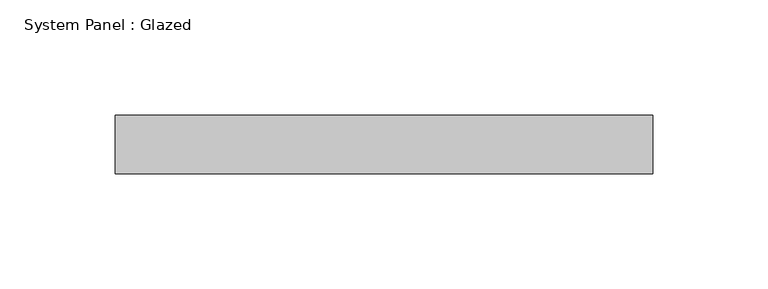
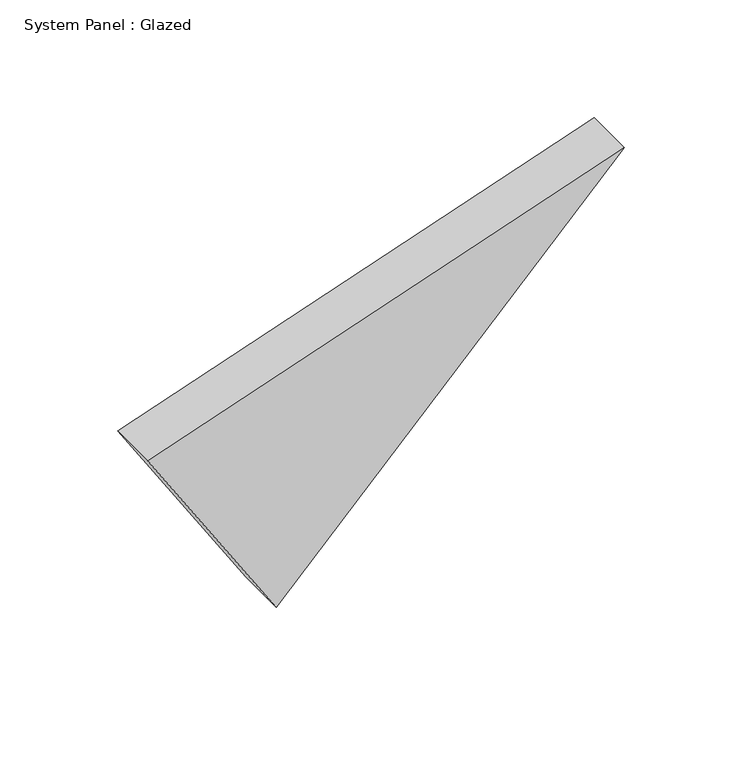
"""IFC4 building model written with IfcOpenShell, lengths in millimetres: plate geometry, System Panel : Glazed."""

from ifc_helpers import new_model, si_unit, frame, origin, place, context, project, spatial, polyline, outline, extrude, source, transform, mapped, element, save


def system_panel_glazed_d9bff1f0(model_context):
    return source(origin(), model_context, "Body", "SweptSolid", [
        extrude(outline(polyline([(97.9544753, -116.7635939), (0.0, -53.844994), (178.7704762, 116.7635939), (97.9544753, -116.7635939)])), frame((0.0, -44.45, 0.0), z_axis=(0.0, 1.0, 0.0), x_axis=(0.0, 0.0, 1.0)), (0.0, 0.0, 1.0), 25.4),
    ])


if __name__ == "__main__":
    model = new_model("IFC4")
    model_context = context("Model", 3, world=origin())
    ifc_project = project(units=[si_unit("LENGTHUNIT", "METRE", prefix="MILLI")], contexts=[model_context])
    site = spatial("IfcSite", under=ifc_project)
    building = spatial("IfcBuilding", under=site)
    placement = place(None, origin())
    system_panel_glazed_shape = system_panel_glazed_d9bff1f0(model_context)
    element("IfcPlate", 1, ObjectType="System Panel : Glazed", at=placement, inside=building, context=model_context, shape_type="MappedRepresentation", body=[
        mapped(system_panel_glazed_shape, transform((0.0, 0.0, 0.0), x_axis=(1.0, 0.0, 0.0), y_axis=(0.0, 1.0, 0.0), z_axis=(0.0, 0.0, 1.0))),
    ])
    save(model, "model.ifc")
